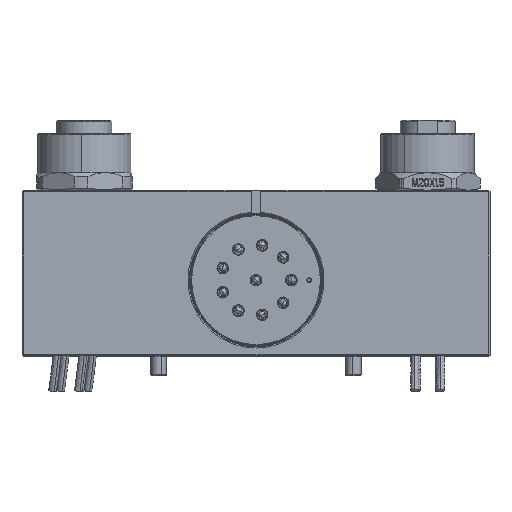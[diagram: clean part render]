
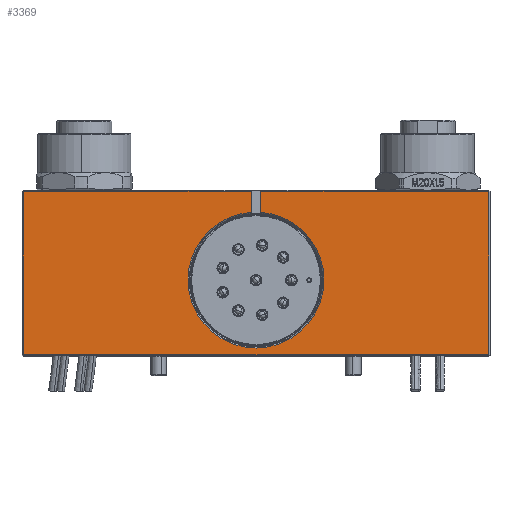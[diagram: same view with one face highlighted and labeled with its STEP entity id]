
A CAD part, top view. The second image highlights one B-rep face of the part: STEP entity #3369.
In plain terms, the highlighted planar face has unit normal (0, 0, 1).
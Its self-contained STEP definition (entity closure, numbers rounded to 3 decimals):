
#1756=PLANE('',#51970);
#3369=ADVANCED_FACE('',(#6844),#1756,.T.);
#6844=FACE_OUTER_BOUND('',#9660,.T.);
#9660=EDGE_LOOP('',(#23904,#23905,#23906,#23907,#23908,#23909,#23910,#23911,
#23912,#23913,#23914,#23915,#23916,#23917));
#12815=CIRCLE('',#51876,17.45);
#12817=CIRCLE('',#51879,17.45);
#12874=CIRCLE('',#51969,17.45);
#14865=LINE('',#71271,#19224);
#14866=LINE('',#71274,#19225);
#14867=LINE('',#71276,#19226);
#14868=LINE('',#71278,#19227);
#14869=LINE('',#71280,#19228);
#14870=LINE('',#71282,#19229);
#14871=LINE('',#71284,#19230);
#14872=LINE('',#71286,#19231);
#14873=LINE('',#71288,#19232);
#14874=LINE('',#71290,#19233);
#14875=LINE('',#71292,#19234);
#19224=VECTOR('',#57151,1.);
#19225=VECTOR('',#57152,1.);
#19226=VECTOR('',#57153,1.);
#19227=VECTOR('',#57154,1.);
#19228=VECTOR('',#57155,1.);
#19229=VECTOR('',#57156,1.);
#19230=VECTOR('',#57157,1.);
#19231=VECTOR('',#57158,1.);
#19232=VECTOR('',#57159,1.);
#19233=VECTOR('',#57160,1.);
#19234=VECTOR('',#57161,1.);
#23904=ORIENTED_EDGE('',*,*,#43500,.F.);
#23905=ORIENTED_EDGE('',*,*,#43501,.T.);
#23906=ORIENTED_EDGE('',*,*,#43502,.T.);
#23907=ORIENTED_EDGE('',*,*,#43503,.T.);
#23908=ORIENTED_EDGE('',*,*,#43504,.T.);
#23909=ORIENTED_EDGE('',*,*,#43505,.T.);
#23910=ORIENTED_EDGE('',*,*,#43506,.T.);
#23911=ORIENTED_EDGE('',*,*,#43507,.T.);
#23912=ORIENTED_EDGE('',*,*,#43508,.T.);
#23913=ORIENTED_EDGE('',*,*,#43509,.T.);
#23914=ORIENTED_EDGE('',*,*,#43510,.F.);
#23915=ORIENTED_EDGE('',*,*,#43351,.T.);
#23916=ORIENTED_EDGE('',*,*,#43348,.T.);
#23917=ORIENTED_EDGE('',*,*,#43511,.T.);
#38498=VERTEX_POINT('',#70912);
#38499=VERTEX_POINT('',#70914);
#38501=VERTEX_POINT('',#70920);
#38602=VERTEX_POINT('',#71272);
#38603=VERTEX_POINT('',#71273);
#38604=VERTEX_POINT('',#71275);
#38605=VERTEX_POINT('',#71277);
#38606=VERTEX_POINT('',#71279);
#38607=VERTEX_POINT('',#71281);
#38608=VERTEX_POINT('',#71283);
#38609=VERTEX_POINT('',#71285);
#38610=VERTEX_POINT('',#71287);
#38611=VERTEX_POINT('',#71289);
#38612=VERTEX_POINT('',#71291);
#43348=EDGE_CURVE('',#38499,#38498,#12815,.T.);
#43351=EDGE_CURVE('',#38501,#38499,#12817,.T.);
#43500=EDGE_CURVE('',#38602,#38603,#14865,.T.);
#43501=EDGE_CURVE('',#38602,#38604,#14866,.T.);
#43502=EDGE_CURVE('',#38604,#38605,#14867,.T.);
#43503=EDGE_CURVE('',#38605,#38606,#14868,.T.);
#43504=EDGE_CURVE('',#38606,#38607,#14869,.T.);
#43505=EDGE_CURVE('',#38607,#38608,#14870,.T.);
#43506=EDGE_CURVE('',#38608,#38609,#14871,.T.);
#43507=EDGE_CURVE('',#38609,#38610,#14872,.T.);
#43508=EDGE_CURVE('',#38610,#38611,#14873,.T.);
#43509=EDGE_CURVE('',#38611,#38612,#14874,.T.);
#43510=EDGE_CURVE('',#38501,#38612,#14875,.T.);
#43511=EDGE_CURVE('',#38498,#38603,#12874,.T.);
#51876=AXIS2_PLACEMENT_3D('',#70913,#56875,#56876);
#51879=AXIS2_PLACEMENT_3D('',#70919,#56882,#56883);
#51969=AXIS2_PLACEMENT_3D('',#71293,#57162,#57163);
#51970=AXIS2_PLACEMENT_3D('',#71294,#57164,#57165);
#56875=DIRECTION('',(0.,0.,-1.));
#56876=DIRECTION('',(1.,0.,0.));
#56882=DIRECTION('',(0.,0.,-1.));
#56883=DIRECTION('',(1.,0.,0.));
#57151=DIRECTION('',(0.,-1.,0.));
#57152=DIRECTION('',(-1.,0.,0.));
#57153=DIRECTION('',(-0.707,-0.707,0.));
#57154=DIRECTION('',(0.,-1.,0.));
#57155=DIRECTION('',(0.707,-0.707,0.));
#57156=DIRECTION('',(1.,0.,0.));
#57157=DIRECTION('',(0.707,0.707,0.));
#57158=DIRECTION('',(0.,1.,0.));
#57159=DIRECTION('',(-0.707,0.707,0.));
#57160=DIRECTION('',(-1.,0.,0.));
#57161=DIRECTION('',(0.,1.,0.));
#57162=DIRECTION('',(0.,0.,-1.));
#57163=DIRECTION('',(1.,0.,0.));
#57164=DIRECTION('',(0.,0.,1.));
#57165=DIRECTION('',(-1.,0.,0.));
#70912=CARTESIAN_POINT('',(-17.45,-1.8,33.4));
#70913=CARTESIAN_POINT('',(0.,-1.8,33.4));
#70914=CARTESIAN_POINT('',(17.45,-1.8,33.4));
#70919=CARTESIAN_POINT('',(0.,-1.8,33.4));
#70920=CARTESIAN_POINT('',(1.25,15.605,33.4));
#71271=CARTESIAN_POINT('',(-1.25,25.378,33.4));
#71272=CARTESIAN_POINT('',(-1.25,21.,33.4));
#71273=CARTESIAN_POINT('',(-1.25,15.605,33.4));
#71274=CARTESIAN_POINT('',(0.,21.,33.4));
#71275=CARTESIAN_POINT('',(-59.676,21.,33.4));
#71276=CARTESIAN_POINT('',(-40.338,40.338,33.4));
#71277=CARTESIAN_POINT('',(-59.8,20.876,33.4));
#71278=CARTESIAN_POINT('',(-59.8,0.,33.4));
#71279=CARTESIAN_POINT('',(-59.8,-20.876,33.4));
#71280=CARTESIAN_POINT('',(-40.338,-40.338,33.4));
#71281=CARTESIAN_POINT('',(-59.676,-21.,33.4));
#71282=CARTESIAN_POINT('',(0.,-21.,33.4));
#71283=CARTESIAN_POINT('',(59.676,-21.,33.4));
#71284=CARTESIAN_POINT('',(40.338,-40.338,33.4));
#71285=CARTESIAN_POINT('',(59.8,-20.876,33.4));
#71286=CARTESIAN_POINT('',(59.8,0.,33.4));
#71287=CARTESIAN_POINT('',(59.8,20.876,33.4));
#71288=CARTESIAN_POINT('',(40.338,40.338,33.4));
#71289=CARTESIAN_POINT('',(59.676,21.,33.4));
#71290=CARTESIAN_POINT('',(0.,21.,33.4));
#71291=CARTESIAN_POINT('',(1.25,21.,33.4));
#71292=CARTESIAN_POINT('',(1.25,25.378,33.4));
#71293=CARTESIAN_POINT('',(0.,-1.8,33.4));
#71294=CARTESIAN_POINT('',(0.,0.,33.4));
